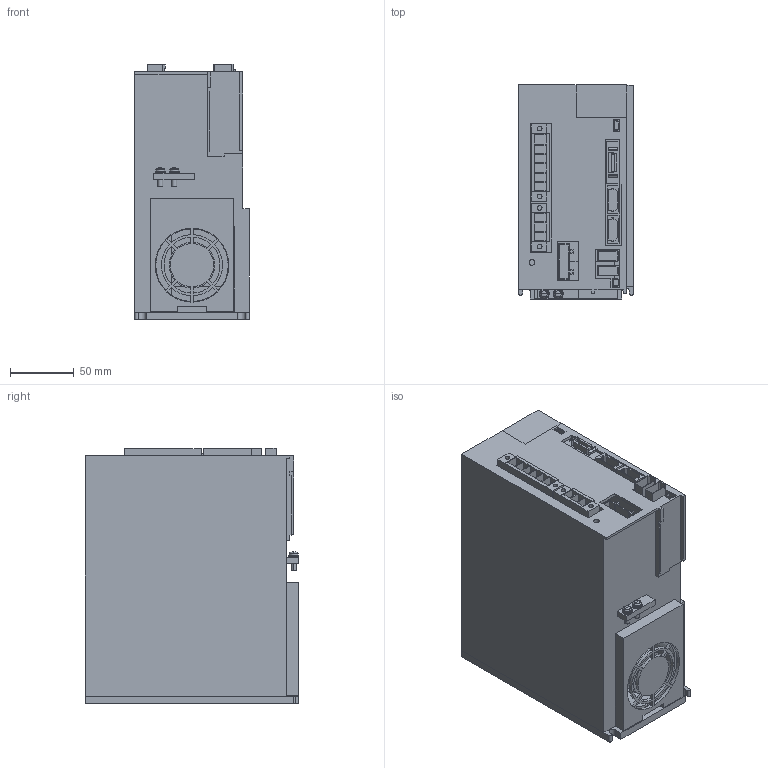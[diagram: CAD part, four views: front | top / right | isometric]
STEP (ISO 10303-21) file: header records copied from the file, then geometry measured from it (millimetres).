
FILE_DESCRIPTION((''),'2;1');
FILE_NAME('MR-J3-350BRJB_ASM','2011-02-18T',('JE18792'),(''),'PRO/ENGINEER BY PARAMETRIC TECHNOLOGY CORPORATION, 2006420','PRO/ENGINEER BY PARAMETRIC TECHNOLOGY CORPORATION, 2006420','');
FILE_SCHEMA(('CONFIG_CONTROL_DESIGN'));
Length unit declared in the file: millimetre
Products named in the file (15): J3-350-CHASSIS; J3-350BRJ-CASE; J3-200-350-FANCOVER; J3-LENZ; J3B-CN1; J3B-CN2; J3B-CN3; J3B-CN4; J3B-CN5; J3-350-CNP1; J3-350-CNP2; J3-350-CNP3; FAN60; SW-PW-P-NA-M4X12; MR-J3-350BRJB_ASM
Assembly tree (17 placements, depth 2):
  MR-J3-350BRJB_ASM
    J3-350-CHASSIS
    J3-350BRJ-CASE
    J3-200-350-FANCOVER
    J3-LENZ
    J3B-CN1  x2
    J3B-CN2  x2
    J3B-CN3
    J3B-CN4
    J3B-CN5
    J3-350-CNP1
    J3-350-CNP2
    J3-350-CNP3
    FAN60
    SW-PW-P-NA-M4X12  x2
Bounding box: 90 x 168 x 201 mm (x, y, z)
Volume: 448192.3 mm3; surface area: 298879.3 mm2
Topology: 19 solids, 19 shells, 518 faces, 1354 edges, 898 vertices
Faces by surface type: plane 424, cylinder 82, cone 4, torus 4, sphere 4
Entity records: 14434 total; most frequent: CARTESIAN_POINT 2499, ORIENTED_EDGE 2412, DIRECTION 2348, EDGE_CURVE 1206, VECTOR 1044, LINE 1044, VERTEX_POINT 803, AXIS2_PLACEMENT_3D 652
